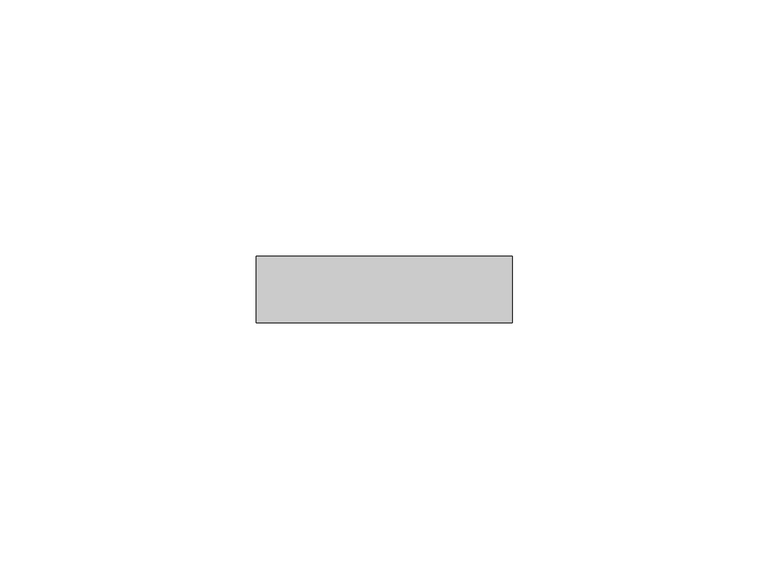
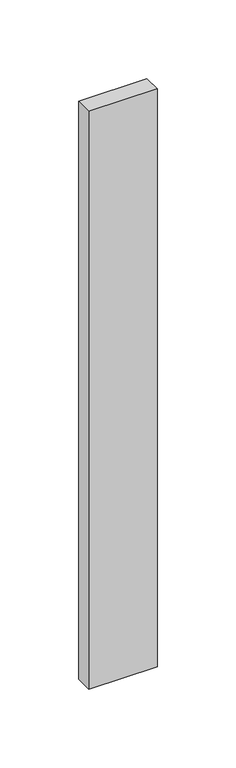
"""IFC4 building model written with IfcOpenShell, lengths in millimetres: proxy geometry, 046253_Strebe_Boden.003."""

from ifc_helpers import new_model, si_unit, frame, origin, place, context, project, spatial, polyline, outline, extrude, source, transform, mapped, element, save


def generic_models_de27f77d(model_context):
    return source(origin(), model_context, "Body", "SweptSolid", [
        extrude(outline(polyline([(65.0, 185.6), (15.0, 185.6), (15.0, 198.6), (65.0, 198.6), (65.0, 185.6)])), frame((0.0, 0.0, -474.0), z_axis=(0.0, 0.0, 1.0), x_axis=(1.0, 0.0, 0.0)), (0.0, 0.0, 1.0), 448.0),
    ])


if __name__ == "__main__":
    model = new_model("IFC4")
    model_context = context("Model", 3, world=origin())
    ifc_project = project(units=[si_unit("LENGTHUNIT", "METRE", prefix="MILLI")], contexts=[model_context])
    site = spatial("IfcSite", under=ifc_project)
    building = spatial("IfcBuilding", under=site)
    placement = place(None, origin())
    generic_models_shape = generic_models_de27f77d(model_context)
    element("IfcBuildingElementProxy", 1, Name="046253_Strebe_Boden.003", ObjectType="046253_Strebe_Boden.003", at=placement, inside=building, context=model_context, shape_type="MappedRepresentation", body=[
        mapped(generic_models_shape, transform((0.0, 0.0, 0.0), x_axis=(1.0, 0.0, 0.0), y_axis=(0.0, 1.0, 0.0), z_axis=(0.0, 0.0, 1.0))),
    ])
    save(model, "model.ifc")
